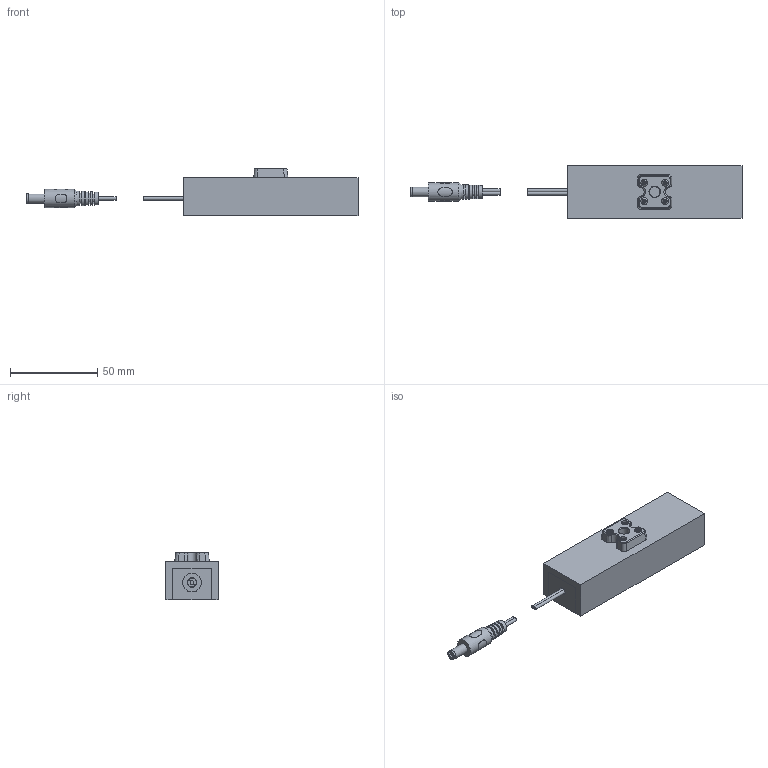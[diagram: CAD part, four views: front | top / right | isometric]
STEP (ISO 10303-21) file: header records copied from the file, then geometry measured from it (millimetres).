
FILE_DESCRIPTION(('STEP AP214'),'1');
FILE_NAME('LED-BL.stp','2025-10-06T06:17:11',(' '),(' '),'Spatial InterOp 3D',' ',' ');
FILE_SCHEMA(('AUTOMOTIVE_DESIGN { 1 0 10303 214 1 1 1 1 }'));
Length unit declared in the file: metre
Products named in the file (3): LED-BL; Component1; Component2
Assembly tree (2 placements, depth 2):
  LED-BL
    Component1
    Component2
Bounding box: 190.26 x 30 x 27.5 mm (x, y, z)
Volume: 50766.8 mm3; surface area: 23410.2 mm2
Topology: 2 solids, 6 shells, 419 faces, 1062 edges, 677 vertices
Faces by surface type: plane 201, cylinder 123, sphere 48, cone 20, bspline 14, torus 13
Full cylindrical faces by diameter (mm): 2 x4, 2.3 x4, 3.8 x4, 4 x4, 4.5 x49, 5.4 x1, 5.5 x1, 6 x1, 10.5 x1
Entity records: 16370 total; most frequent: CARTESIAN_POINT 3856, DIRECTION 1842, ORIENTED_EDGE 1734, EDGE_CURVE 867, AXIS2_PLACEMENT_3D 697, VERTEX_POINT 617, EDGE_LOOP 586, FACE_OUTER_BOUND 497
